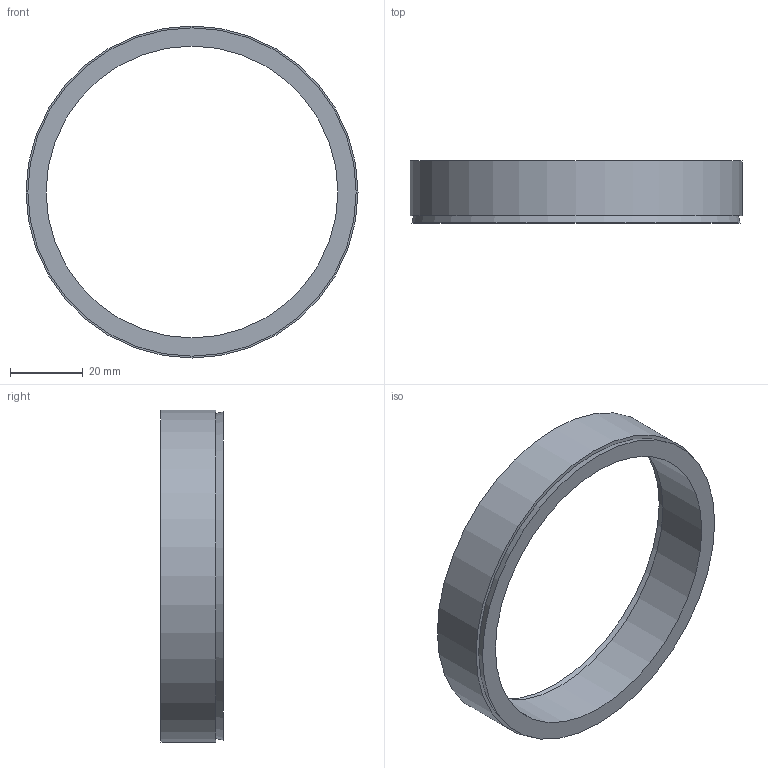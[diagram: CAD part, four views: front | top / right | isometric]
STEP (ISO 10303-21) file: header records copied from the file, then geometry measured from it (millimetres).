
FILE_DESCRIPTION( ( 'Unknown' ), '1' );
FILE_NAME( 'C:/Dokumente und Einstellungen/Sven/Desktop/homepage/cad - homepage/KBS50/KBS 50 - 80 x 91.stp', 'Unknown', ( 'Unknown' ), ( 'Unknown' ), 'XStep 1.0', 'Unknown', ' ' );
FILE_SCHEMA( ( 'automotive_design' ) );
Length unit declared in the file: millimetre
Products named in the file (1): 1
Bounding box: 91 x 17 x 91 mm (x, y, z)
Volume: 24293.1 mm3; surface area: 12408.7 mm2
Topology: 1 solids, 1 shells, 8 faces, 12 edges, 8 vertices
Faces by surface type: plane 4, cylinder 2, cone 2
Full cylindrical faces by diameter (mm): 80 x1, 91 x1
Entity records: 248 total; most frequent: DIRECTION 34, CARTESIAN_POINT 25, AXIS2_PLACEMENT_3D 17, EDGE_LOOP 16, ORIENTED_EDGE 16, FACE_OUTER_BOUND 10, STYLED_ITEM 8, PRESENTATION_STYLE_ASSIGNMENT 8
